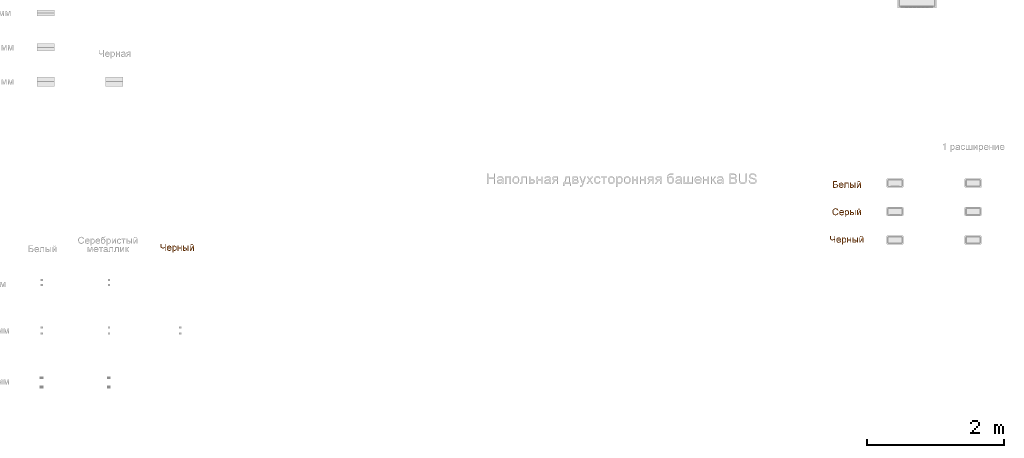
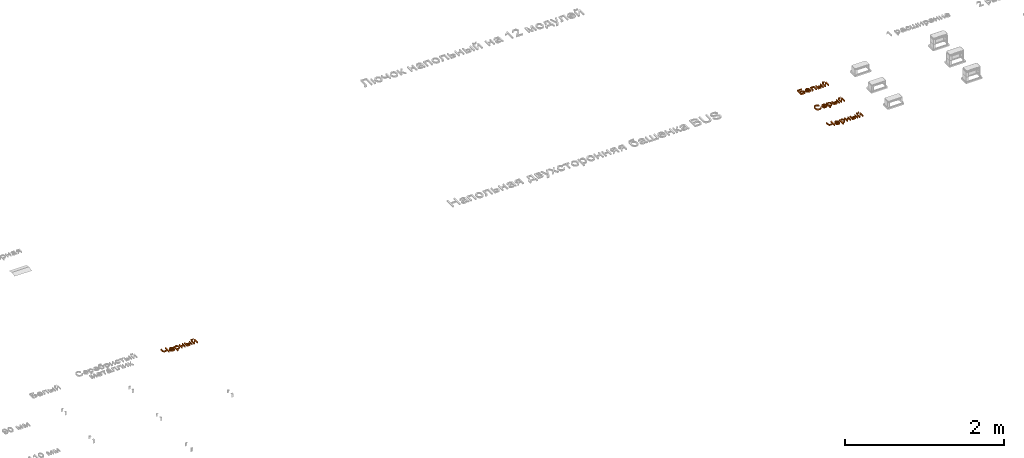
# One storey, part 51 of 87: 4 proxies.
"""IFC2X3 building model written with IfcOpenShell, lengths in millimetres."""

from ifc_helpers import new_model, entity, si_unit, converted_unit, derived_unit, direction, frame, frame_2d, origin, origin_2d_with_axis, place, context, subcontext, project, spatial, polyline, rectangle, outline, extrude, element, save


model = new_model("IFC2X3")

# Units and contexts
model_context = context("Model", 3, precision=0.01, world=origin(), true_north=direction((6.12303176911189e-17, 1.0)))
body_context = subcontext(model_context, "Body", "Model", "MODEL_VIEW")
ifc_project = project(units=[si_unit("LENGTHUNIT", "METRE", prefix="MILLI"), si_unit("AREAUNIT", "SQUARE_METRE"), si_unit("VOLUMEUNIT", "CUBIC_METRE"), converted_unit("PLANEANGLEUNIT", "DEGREE", entity("IfcRatioMeasure", 0.0174532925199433), si_unit("PLANEANGLEUNIT", "RADIAN"), dimensions=[0, 0, 0, 0, 0, 0, 0]), si_unit("MASSUNIT", "GRAM", prefix="KILO"), derived_unit("MASSDENSITYUNIT", [(si_unit("MASSUNIT", "GRAM", prefix="KILO"), 1), (si_unit("LENGTHUNIT", "METRE"), -3)]), si_unit("TIMEUNIT", "SECOND"), si_unit("FREQUENCYUNIT", "HERTZ"), si_unit("THERMODYNAMICTEMPERATUREUNIT", "DEGREE_CELSIUS"), derived_unit("THERMALTRANSMITTANCEUNIT", [(si_unit("MASSUNIT", "GRAM", prefix="KILO"), 1), (si_unit("THERMODYNAMICTEMPERATUREUNIT", "KELVIN"), -1), (si_unit("TIMEUNIT", "SECOND"), -3)]), derived_unit("VOLUMETRICFLOWRATEUNIT", [(si_unit("LENGTHUNIT", "METRE"), 3), (si_unit("TIMEUNIT", "SECOND"), -1)]), si_unit("ELECTRICCURRENTUNIT", "AMPERE"), si_unit("ELECTRICVOLTAGEUNIT", "VOLT"), si_unit("POWERUNIT", "WATT"), si_unit("FORCEUNIT", "NEWTON", prefix="KILO"), si_unit("ILLUMINANCEUNIT", "LUX"), si_unit("LUMINOUSFLUXUNIT", "LUMEN"), si_unit("LUMINOUSINTENSITYUNIT", "CANDELA"), derived_unit("USERDEFINED", [(si_unit("MASSUNIT", "GRAM", prefix="KILO"), -1), (si_unit("LENGTHUNIT", "METRE"), -2), (si_unit("TIMEUNIT", "SECOND"), 3), (si_unit("LUMINOUSFLUXUNIT", "LUMEN"), 1)]), derived_unit("LINEARVELOCITYUNIT", [(si_unit("LENGTHUNIT", "METRE"), 1), (si_unit("TIMEUNIT", "SECOND"), -1)]), si_unit("PRESSUREUNIT", "PASCAL"), derived_unit("USERDEFINED", [(si_unit("LENGTHUNIT", "METRE"), -2), (si_unit("MASSUNIT", "GRAM", prefix="KILO"), 1), (si_unit("TIMEUNIT", "SECOND"), -2)])], contexts=[model_context])

# Site, building, storey
site_placement = place(None, origin())
site = spatial("IfcSite", under=ifc_project, at=site_placement, Name="Default", CompositionType="ELEMENT")
building_placement = place(site_placement, origin())
building = spatial("IfcBuilding", under=site, at=building_placement, Name="Наименование здания", CompositionType="ELEMENT")
storey_placement = place(building_placement, origin())
storey = spatial("IfcBuildingStorey", under=building, at=storey_placement, Name="Этаж 01", CompositionType="ELEMENT", Elevation=0.0)

# Proxies
proxy_1_placement = place(storey_placement, origin())
element("IfcBuildingElementProxy", 1, at=proxy_1_placement, inside=storey, Name="Текст модели:100 мм Arial", ObjectType="Текст модели:100 мм Arial", context=body_context, shape_type="SweptSolid", body=[
    extrude(outline(polyline([(-50.9950475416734, -42.7620371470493), (49.461262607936, -42.7620371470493), (49.461262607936, -4.42873324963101), (45.2428823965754, 17.8649156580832), (34.365838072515, 27.7118903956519), (20.0552284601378, 31.0105656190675), (3.57411507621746, 26.3752524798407), (-6.06439319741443, 14.0389429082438), (-8.61504169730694, -6.68507615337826), (-8.61504169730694, -30.2049983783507), (-38.4380087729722, -30.2049983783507), (-38.4380087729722, 20.0231566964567), (-50.9950475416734, 20.0231566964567), (-50.9950475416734, -42.7620371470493)]), holes=[polyline([(36.9042238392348, -30.2049983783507), (3.94199707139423, -30.2049983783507), (3.94199707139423, -12.2523570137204), (5.24184678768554, 6.66904027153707), (10.4902965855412, 15.3387926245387), (20.325008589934, 18.4535268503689), (27.5784152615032, 17.0923634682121), (32.7594200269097, 13.0088733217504), (36.9042238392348, -3.30056179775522), (36.9042238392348, -30.2049983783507)])]), frame((24680.5887758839, 1021.56272564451, 0.0), z_axis=(0.0, 0.0, 1.0), x_axis=(0.0, -1.0, 0.0)), (0.0, 0.0, 1.0), 20.0),
    extrude(outline(polyline([(-8.10128238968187, -20.3751729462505), (-15.5352214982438, -30.3140016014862), (-5.78400372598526, -33.5775071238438), (4.12185089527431, -33.3132173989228), (13.8776168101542, -29.4480778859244), (23.1785684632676, -21.9090340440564), (31.6380426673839, -9.59237957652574), (34.1620486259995, 3.74135328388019), (30.6040508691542, 17.2442201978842), (20.8175139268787, 30.0682768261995), (7.27698270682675, 39.7846728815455), (-6.66179525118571, 43.1117813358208), (-19.9642596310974, 40.4221234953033), (-31.5958501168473, 32.0882206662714), (-39.2435519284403, 20.5090048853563), (-41.3106827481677, 7.34319797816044), (-37.4373707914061, -6.34962495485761), (-27.2637442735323, -19.5098888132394), (-24.78045840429, -21.8106804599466), (14.4643272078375, 18.7422646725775), (19.7071986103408, 10.643799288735), (21.1614672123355, 2.21005051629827), (19.1472085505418, -5.98136753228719), (13.9844981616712, -13.3528407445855), (3.53684605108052, -20.3751729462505), (-8.10128238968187, -20.3751729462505)]), holes=[polyline([(5.44081225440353, 27.474698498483), (-25.1227061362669, -4.10760383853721), (-29.8038819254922, 7.41909510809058), (-27.8851342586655, 15.7498710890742), (-22.5382240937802, 23.3910349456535), (-8.4097033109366, 31.2368652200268), (-1.08072680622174, 30.9147288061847), (5.44081225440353, 27.474698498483)])]), frame((24758.6708238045, 1002.42401386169, 0.0), z_axis=(0.0, 0.0, -1.0), x_axis=(-0.695421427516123, -0.718602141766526, 0.0)), (0.0, 0.0, -1.0), 20.0),
    extrude(outline(polyline([(-49.3689973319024, 12.544776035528), (-49.3689973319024, -43.9618984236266), (24.3300290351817, -43.9618984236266), (24.3300290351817, -31.404859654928), (-36.8119585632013, -31.404859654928), (-36.8119585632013, -0.0122627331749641), (-1.61791435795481, -0.0122627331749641), (14.6179443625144, 0.833865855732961), (21.4728122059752, 5.48144172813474), (24.403605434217, 16.4688506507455), (23.765943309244, 26.6714446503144), (11.8465666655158, 26.6714446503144), (11.8465666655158, 21.0551128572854), (11.0740144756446, 15.3774673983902), (8.62146784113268, 13.1088617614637), (-2.32915288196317, 12.544776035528), (-49.3689973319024, 12.544776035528)])), frame((24823.030797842, 996.505068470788, 0.0), z_axis=(0.0, 0.0, -1.0), x_axis=(0.0, -1.0, 0.0)), (0.0, 0.0, -1.0), 20.0),
    extrude(outline(polyline([(-42.3988715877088, -34.5139341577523), (31.3737311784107, -34.5139341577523), (31.3737311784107, -3.73447389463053), (29.6538828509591, 9.31613988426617), (24.4943378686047, 18.2526066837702), (16.9129030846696, 23.4121516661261), (7.9273853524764, 25.131999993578), (-1.94104916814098, 23.081057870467), (-9.42438208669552, 16.928231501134), (-14.1424686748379, 6.98622058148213), (-15.7151642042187, -6.43227519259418), (-15.7151642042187, -21.9568953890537), (-42.3988715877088, -21.9568953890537), (-42.3988715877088, -34.5139341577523)]), holes=[polyline([(18.8166924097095, -21.9568953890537), (-3.15812543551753, -21.9568953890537), (-3.15812543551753, -7.41329384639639), (0.226388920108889, 8.88387853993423), (7.95191081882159, 12.5749612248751), (16.1802047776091, 7.59629155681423), (18.8166924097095, -9.05650009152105), (18.8166924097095, -21.9568953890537)])]), frame((24920.3421885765, 1003.47519421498, 0.0), z_axis=(0.0, 0.0, 1.0), x_axis=(0.0, -1.0, 0.0)), (0.0, 0.0, 1.0), 20.0),
    extrude(outline(polyline([(-11.1429830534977, -6.65049913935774), (-15.3141401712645, -15.0941956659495), (-0.0922190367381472, -15.8161107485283), (10.2631635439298, -5.8454754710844), (12.4162171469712, 9.42172447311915), (2.76087400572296, 21.4951559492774), (-1.41028311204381, 13.0514594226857), (3.36929976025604, 6.75127419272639), (2.31913688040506, -0.662833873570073), (-3.16906596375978, -6.65049913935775), (-11.1429830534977, -6.65049913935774)])), frame((25016.1970495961, 1065.51283297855, 0.0), z_axis=(0.0, 0.0, -1.0), x_axis=(-0.442902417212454, -0.896569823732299, 0.0)), (0.0, 0.0, -1.0), 20.0),
    extrude(outline(polyline([(-36.9206370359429, -29.8425874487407), (36.8519657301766, -29.8425874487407), (36.8519657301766, -13.4105249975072), (-19.0660975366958, 17.2463079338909), (36.8519657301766, 17.2463079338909), (36.8519657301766, 29.8033467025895), (-36.9206370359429, 29.8033467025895), (-36.9206370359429, 13.5674879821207), (19.3407827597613, -17.2855486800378), (-36.9206370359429, -17.2855486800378), (-36.9206370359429, -29.8425874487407)])), frame((25016.1271520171, 1008.95342876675, 0.0), z_axis=(0.0, 0.0, 1.0), x_axis=(0.0, -1.0, 0.0)), (0.0, 0.0, 1.0), 20.0),
    extrude(rectangle(XDim=73.7726027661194, YDim=12.5570387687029, at=origin_2d_with_axis()), frame((24961.1704870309, 1008.98776441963, 0.0), z_axis=(0.0, 0.0, 1.0), x_axis=(0.0, -1.0, 0.0)), (0.0, 0.0, 1.0), 20.0),
])
proxy_2_placement = place(storey_placement, origin())
element("IfcBuildingElementProxy", 2, at=proxy_2_placement, inside=storey, Name="Текст модели:100 мм Arial", ObjectType="Текст модели:100 мм Arial", context=body_context, shape_type="SweptSolid", body=[
    extrude(outline(polyline([(1.51482499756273, -34.4161092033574), (0.106407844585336, -47.3070398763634), (15.8423468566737, -47.0569587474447), (29.0556969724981, -42.3279421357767), (39.3932861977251, -33.4650471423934), (46.501942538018, -20.8133308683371), (50.1054677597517, -6.60502583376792), (49.5636952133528, 5.9640118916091), (45.142303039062, 17.1113098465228), (37.1069693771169, 27.0543955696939), (13.8427655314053, 41.4649352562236), (-0.385561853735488, 45.2497080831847), (-13.7947428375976, 45.5463194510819), (-25.9267527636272, 42.4308274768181), (-36.323566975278, 35.9792902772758), (-44.6338782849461, 26.8094665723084), (-50.5063795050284, 15.5391150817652), (-53.5414697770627, 1.96814719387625), (-52.0743247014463, -10.7537866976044), (-46.3177039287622, -22.1661847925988), (-36.4843671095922, -31.8085452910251), (-29.2483218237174, -21.1187569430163), (-40.0515191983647, -6.02732816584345), (-38.5860312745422, 11.5610351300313), (-26.6200251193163, 28.0408775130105), (-9.20796903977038, 33.327216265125), (9.38287380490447, 29.7265712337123), (28.2800845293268, 18.5384764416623), (37.0403955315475, 2.61944954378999), (35.1968742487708, -15.2062682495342), (30.0363719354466, -24.4614258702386), (22.5795019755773, -30.9812938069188), (13.0108058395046, -34.4161092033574), (1.51482499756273, -34.4161092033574)])), frame((24674.4448392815, 621.388360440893, 0.0), z_axis=(0.0, 0.0, -1.0), x_axis=(-0.353343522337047, -0.93549364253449, 0.0)), (0.0, 0.0, -1.0), 20.0),
    extrude(outline(polyline([(-8.10128238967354, -20.3751729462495), (-15.5352214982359, -30.3140016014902), (-5.78400372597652, -33.5775071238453), (4.12185089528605, -33.3132173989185), (13.8776168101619, -29.4480778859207), (23.1785684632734, -21.9090340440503), (31.6380426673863, -9.59237957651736), (34.1620486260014, 3.74135328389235), (30.6040508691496, 17.2442201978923), (20.8175139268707, 30.068276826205), (7.27698270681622, 39.7846728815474), (-6.66179525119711, 43.1117813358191), (-19.9642596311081, 40.4221234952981), (-31.5958501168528, 32.0882206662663), (-39.2435519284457, 20.509004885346), (-41.3106827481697, 7.34319797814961), (-37.4373707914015, -6.34962495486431), (-27.2637442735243, -19.5098888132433), (-24.7804584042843, -21.8106804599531), (14.4643272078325, 18.7422646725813), (19.707198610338, 10.6437992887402), (21.1614672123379, 2.21005051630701), (19.1472085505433, -5.9813675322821), (13.9844981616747, -13.3528407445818), (3.53684605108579, -20.3751729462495), (-8.10128238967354, -20.3751729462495)]), holes=[polyline([(5.44081225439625, 27.4746984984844), (-25.1227061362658, -4.10760383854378), (-29.8038819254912, 7.41909510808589), (-27.8851342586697, 15.7498710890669), (-22.5382240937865, 23.3910349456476), (-8.40970331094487, 31.2368652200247), (-1.08072680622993, 30.9147288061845), (5.44081225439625, 27.4746984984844)])]), frame((24765.7341581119, 602.424013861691, 0.0), z_axis=(0.0, 0.0, -1.0), x_axis=(-0.695421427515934, -0.718602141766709, 0.0)), (0.0, 0.0, -1.0), 20.0),
    extrude(outline(polyline([(-28.8983569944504, -61.2335493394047), (-16.3413182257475, -61.2335493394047), (-16.3413182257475, -23.1700255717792), (-8.38280439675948, -31.3247431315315), (2.54329085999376, -34.5498419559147), (18.4235303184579, -29.7305878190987), (29.9259740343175, -15.8736993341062), (33.8868368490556, 4.47017499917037), (30.3796951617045, 23.8207679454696), (19.9808974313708, 37.5059781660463), (4.06386977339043, 42.36202050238), (-7.65930313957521, 38.8916670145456), (-16.3413182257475, 28.4806065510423), (-16.3413182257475, 40.7923906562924), (-28.8983569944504, 40.7923906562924), (-28.8983569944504, -61.2335493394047)]), holes=[polyline([(-16.3413182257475, 3.31747808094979), (-14.8912500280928, 14.7064915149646), (-10.5410454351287, 23.0236902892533), (-4.30851130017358, 28.1096588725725), (2.7885455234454, 29.8049817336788), (9.85801119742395, 28.210826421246), (15.8606190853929, 23.4283604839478), (19.9625033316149, 15.4453211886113), (21.3297980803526, 4.24944580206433), (19.9287808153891, -7.43080754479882), (15.7257290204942, -15.5916564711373), (9.56063991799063, -20.3925165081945), (2.27351073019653, -21.9928031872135), (-4.89712249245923, -20.447698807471), (-10.908927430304, -15.8123856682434), (-14.9832205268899, -7.93971097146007), (-16.3413182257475, 3.31747808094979)])]), frame((24840.169193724, 605.081675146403, 0.0)), (0.0, 0.0, 1.0), 20.0),
    extrude(outline(polyline([(-42.3988715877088, -34.5139341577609), (31.3737311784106, -34.5139341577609), (31.3737311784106, -3.73447389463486), (29.6538828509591, 9.31613988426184), (24.4943378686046, 18.2526066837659), (16.9129030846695, 23.4121516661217), (7.9273853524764, 25.1319999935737), (-1.94104916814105, 23.0810578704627), (-9.42438208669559, 16.9282315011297), (-14.142468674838, 6.9862205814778), (-15.7151642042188, -6.43227519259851), (-15.7151642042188, -21.956895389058), (-42.3988715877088, -21.956895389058), (-42.3988715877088, -34.5139341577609)]), holes=[polyline([(18.8166924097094, -21.956895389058), (-3.1581254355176, -21.956895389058), (-3.1581254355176, -7.41329384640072), (0.226388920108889, 8.8838785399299), (7.95191081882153, 12.5749612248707), (16.1802047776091, 7.5962915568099), (18.8166924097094, -9.05650009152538), (18.8166924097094, -21.956895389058)])]), frame((24922.6966333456, 603.475194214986, 0.0), z_axis=(0.0, 0.0, 1.0), x_axis=(0.0, -1.0, 0.0)), (0.0, 0.0, 1.0), 20.0),
    extrude(outline(polyline([(-11.1429830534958, -6.65049913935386), (-15.3141401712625, -15.0941956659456), (-0.0922190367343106, -15.8161107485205), (10.2631635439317, -5.84547547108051), (12.416217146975, 9.42172447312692), (2.76087400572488, 21.4951559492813), (-1.41028311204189, 13.0514594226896), (3.36929976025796, 6.75127419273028), (2.31913688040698, -0.662833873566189), (-3.16906596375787, -6.65049913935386), (-11.1429830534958, -6.65049913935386)])), frame((25018.5514943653, 665.512832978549, 0.0), z_axis=(0.0, 0.0, -1.0), x_axis=(-0.442902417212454, -0.896569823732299, 0.0)), (0.0, 0.0, -1.0), 20.0),
    extrude(outline(polyline([(-36.9206370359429, -29.8425874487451), (36.8519657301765, -29.8425874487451), (36.8519657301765, -13.4105249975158), (-19.0660975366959, 17.2463079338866), (36.8519657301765, 17.2463079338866), (36.8519657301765, 29.8033467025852), (-36.9206370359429, 29.8033467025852), (-36.9206370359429, 13.5674879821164), (19.3407827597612, -17.2855486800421), (-36.9206370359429, -17.2855486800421), (-36.9206370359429, -29.8425874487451)])), frame((25018.4815967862, 608.953428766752, 0.0), z_axis=(0.0, 0.0, 1.0), x_axis=(0.0, -1.0, 0.0)), (0.0, 0.0, 1.0), 20.0),
    extrude(rectangle(XDim=73.7726027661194, YDim=12.5570387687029, at=origin_2d_with_axis()), frame((24963.5249318, 608.987764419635, 0.0), z_axis=(0.0, 0.0, 1.0), x_axis=(0.0, -1.0, 0.0)), (0.0, 0.0, 1.0), 20.0),
])
proxy_3_placement = place(storey_placement, origin())
element("IfcBuildingElementProxy", 3, at=proxy_3_placement, inside=storey, Name="Текст модели:100 мм Arial", ObjectType="Текст модели:100 мм Arial", context=body_context, shape_type="SweptSolid", body=[
    extrude(outline(polyline([(-57.0521744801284, -41.5683661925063), (43.404135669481, -41.5683661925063), (43.404135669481, -29.0113274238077), (-5.30344049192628, -29.0113274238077), (-11.5329089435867, 0.689012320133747), (-6.37029827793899, 15.1835629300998), (1.59741260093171, 19.7085114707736), (15.1753239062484, 21.2168276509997), (43.404135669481, 21.2168276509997), (43.404135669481, 33.7738664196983), (13.4830667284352, 33.7738664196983), (-6.51745107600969, 31.0883278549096), (-19.1235407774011, 20.4442754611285), (-24.0899477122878, 2.08696390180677), (-16.8304096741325, -29.0113274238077), (-57.0521744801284, -29.0113274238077), (-57.0521744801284, -41.5683661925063)])), frame((24630.0054142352, 229.1536375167, 0.0), z_axis=(0.0, 0.0, 1.0), x_axis=(0.0, 1.0, 0.0)), (0.0, 0.0, 1.0), 20.0),
    extrude(outline(polyline([(-8.10128238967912, -20.3751729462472), (-15.535221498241, -30.3140016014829), (-5.78400372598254, -33.5775071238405), (4.12185089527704, -33.3132173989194), (13.877616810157, -29.4480778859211), (23.1785684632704, -21.9090340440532), (31.6380426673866, -9.59237957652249), (34.1620486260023, 3.74135328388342), (30.6040508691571, 17.2442201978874), (20.8175139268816, 30.0682768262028), (7.27698270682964, 39.7846728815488), (-6.66179525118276, 43.111781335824), (-19.9642596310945, 40.4221234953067), (-31.5958501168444, 32.0882206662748), (-39.2435519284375, 20.5090048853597), (-41.3106827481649, 7.34319797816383), (-37.4373707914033, -6.34962495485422), (-27.2637442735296, -19.509888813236), (-24.7804584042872, -21.8106804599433), (14.4643272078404, 18.7422646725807), (19.7071986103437, 10.6437992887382), (21.1614672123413, 2.21005051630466), (19.1472085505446, -5.98136753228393), (13.984498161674, -13.3528407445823), (3.53684605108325, -20.3751729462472), (-8.10128238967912, -20.3751729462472)]), holes=[polyline([(5.44081225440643, 27.4746984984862), (-25.1227061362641, -4.10760383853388), (-29.8038819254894, 7.41909510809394), (-27.8851342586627, 15.7498710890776), (-22.5382240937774, 23.3910349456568), (-8.40970331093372, 31.2368652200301), (-1.08072680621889, 30.914728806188), (5.44081225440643, 27.4746984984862)])]), frame((24723.3541522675, 202.424013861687, 0.0), z_axis=(0.0, 0.0, -1.0), x_axis=(-0.695421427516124, -0.718602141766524, 0.0)), (0.0, 0.0, -1.0), 20.0),
    extrude(outline(polyline([(-28.8983569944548, -61.2335493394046), (-16.3413182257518, -61.2335493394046), (-16.3413182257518, -23.1700255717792), (-8.38280439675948, -31.3247431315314), (2.54329085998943, -34.5498419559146), (18.4235303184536, -29.7305878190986), (29.9259740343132, -15.8736993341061), (33.8868368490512, 4.47017499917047), (30.3796951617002, 23.8207679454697), (19.9808974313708, 37.5059781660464), (4.0638697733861, 42.3620205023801), (-7.65930313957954, 38.8916670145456), (-16.3413182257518, 28.4806065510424), (-16.3413182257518, 40.7923906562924), (-28.8983569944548, 40.7923906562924), (-28.8983569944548, -61.2335493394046)]), holes=[polyline([(-16.3413182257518, 3.31747808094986), (-14.8912500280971, 14.7064915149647), (-10.541045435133, 23.0236902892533), (-4.30851130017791, 28.1096588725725), (2.78854552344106, 29.8049817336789), (9.85801119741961, 28.2108264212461), (15.8606190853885, 23.4283604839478), (19.9625033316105, 15.4453211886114), (21.3297980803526, 4.2494458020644), (19.9287808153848, -7.43080754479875), (15.7257290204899, -15.5916564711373), (9.56063991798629, -20.3925165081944), (2.2735107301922, -21.9928031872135), (-4.89712249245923, -20.4476988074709), (-10.9089274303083, -15.8123856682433), (-14.9832205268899, -7.93971097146), (-16.3413182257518, 3.31747808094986)])]), frame((24797.7891878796, 205.081675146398, 0.0)), (0.0, 0.0, 1.0), 20.0),
    extrude(outline(polyline([(-36.1014864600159, -29.038152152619), (37.6711163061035, -29.038152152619), (37.6711163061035, -16.4811133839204), (4.70888953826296, -16.4811133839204), (4.70888953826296, 16.4811133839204), (37.6711163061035, 16.4811133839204), (37.6711163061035, 29.0381521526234), (-36.1014864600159, 29.0381521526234), (-36.1014864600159, 16.4811133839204), (-7.84814923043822, 16.4811133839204), (-7.84814923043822, -16.4811133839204), (-36.1014864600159, -16.4811133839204), (-36.1014864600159, -29.038152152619)])), frame((24874.8408454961, 209.772579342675, 0.0), z_axis=(0.0, 0.0, 1.0), x_axis=(0.0, -1.0, 0.0)), (0.0, 0.0, 1.0), 20.0),
    extrude(outline(polyline([(-42.3988715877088, -34.5139341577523), (31.3737311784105, -34.5139341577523), (31.3737311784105, -3.73447389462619), (29.653882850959, 9.3161398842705), (24.4943378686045, 18.2526066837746), (16.9129030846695, 23.4121516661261), (7.9273853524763, 25.131999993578), (-1.94104916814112, 23.081057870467), (-9.42438208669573, 16.9282315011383), (-14.1424686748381, 6.98622058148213), (-15.7151642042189, -6.43227519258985), (-15.7151642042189, -21.9568953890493), (-42.3988715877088, -21.9568953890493), (-42.3988715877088, -34.5139341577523)]), holes=[polyline([(18.8166924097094, -21.9568953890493), (-3.1581254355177, -21.9568953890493), (-3.1581254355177, -7.41329384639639), (0.226388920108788, 8.88387853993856), (7.95191081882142, 12.5749612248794), (16.180204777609, 7.59629155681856), (18.8166924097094, -9.05650009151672), (18.8166924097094, -21.9568953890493)])]), frame((24957.2284899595, 203.475194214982, 0.0), z_axis=(0.0, 0.0, 1.0), x_axis=(0.0, -1.0, 0.0)), (0.0, 0.0, 1.0), 20.0),
    extrude(outline(polyline([(-11.1429830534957, -6.65049913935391), (-15.3141401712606, -15.0941956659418), (-0.092219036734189, -15.8161107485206), (10.2631635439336, -5.84547547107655), (12.416217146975, 9.42172447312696), (2.7608740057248, 21.4951559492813), (-1.41028311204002, 13.0514594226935), (3.36929976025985, 6.75127419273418), (2.31913688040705, -0.66283387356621), (-3.16906596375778, -6.65049913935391), (-11.1429830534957, -6.65049913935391)])), frame((25053.0833509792, 265.512832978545, 0.0), z_axis=(0.0, 0.0, -1.0), x_axis=(-0.442902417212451, -0.8965698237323, 0.0)), (0.0, 0.0, -1.0), 20.0),
    extrude(outline(polyline([(-36.9206370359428, -29.8425874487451), (36.8519657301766, -29.8425874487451), (36.8519657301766, -13.4105249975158), (-19.0660975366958, 17.2463079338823), (36.8519657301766, 17.2463079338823), (36.8519657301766, 29.8033467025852), (-36.9206370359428, 29.8033467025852), (-36.9206370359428, 13.5674879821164), (19.3407827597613, -17.2855486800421), (-36.9206370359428, -17.2855486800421), (-36.9206370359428, -29.8425874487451)])), frame((25053.0134534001, 208.953428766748, 0.0), z_axis=(0.0, 0.0, 1.0), x_axis=(0.0, -1.0, 0.0)), (0.0, 0.0, 1.0), 20.0),
    extrude(rectangle(XDim=73.7726027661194, YDim=12.5570387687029, at=origin_2d_with_axis()), frame((24998.056788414, 208.987764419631, 0.0), z_axis=(0.0, 0.0, 1.0), x_axis=(0.0, -1.0, 0.0)), (0.0, 0.0, 1.0), 20.0),
])
proxy_4_placement = place(storey_placement, origin())
element("IfcBuildingElementProxy", 4, at=proxy_4_placement, inside=storey, Name="Текст модели:100 мм Arial", ObjectType="Текст модели:100 мм Arial", context=body_context, shape_type="SweptSolid", body=[
    extrude(outline(polyline([(-57.0521744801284, -41.5683661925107), (43.404135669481, -41.5683661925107), (43.404135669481, -29.0113274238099), (-5.30344049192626, -29.0113274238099), (-11.5329089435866, 0.689012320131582), (-6.37029827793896, 15.1835629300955), (1.59741260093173, 19.7085114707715), (15.1753239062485, 21.2168276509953), (43.404135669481, 21.2168276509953), (43.404135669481, 33.7738664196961), (13.4830667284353, 33.7738664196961), (-6.51745107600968, 31.0883278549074), (-19.1235407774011, 20.4442754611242), (-24.0899477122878, 2.08696390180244), (-16.8304096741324, -29.0113274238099), (-57.0521744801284, -29.0113274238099), (-57.0521744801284, -41.5683661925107)])), frame((14870.0647556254, 110.922796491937, 0.0), z_axis=(0.0, 0.0, 1.0), x_axis=(0.0, 1.0, 0.0)), (0.0, 0.0, 1.0), 20.0),
    extrude(outline(polyline([(-8.10128238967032, -20.375172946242), (-15.5352214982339, -30.3140016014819), (-5.78400372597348, -33.5775071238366), (4.12185089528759, -33.3132173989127), (13.8776168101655, -29.4480778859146), (23.1785684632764, -21.909034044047), (31.6380426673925, -9.59237957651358), (34.1620486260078, 3.74135328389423), (30.6040508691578, 17.2442201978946), (20.8175139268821, 30.0682768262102), (7.27698270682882, 39.7846728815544), (-6.66179525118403, 43.1117813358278), (-19.9642596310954, 40.4221234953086), (-31.5958501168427, 32.0882206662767), (-39.2435519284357, 20.509004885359), (-41.3106827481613, 7.34319797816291), (-37.4373707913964, -6.34962495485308), (-27.2637442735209, -19.5098888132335), (-24.7804584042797, -21.8106804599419), (14.4643272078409, 18.7422646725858), (19.7071986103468, 10.6437992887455), (21.1614672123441, 2.2100505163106), (19.1472085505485, -5.98136753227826), (13.9844981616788, -13.3528407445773), (3.53684605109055, -20.375172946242), (-8.10128238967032, -20.375172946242)]), holes=[polyline([(5.44081225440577, 27.47469849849), (-25.122706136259, -4.10760383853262), (-29.8038819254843, 7.41909510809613), (-27.8851342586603, 15.7498710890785), (-22.538224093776, 23.3910349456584), (-8.40970331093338, 31.2368652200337), (-1.08072680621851, 30.9147288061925), (5.44081225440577, 27.47469849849)])]), frame((14963.4134936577, 84.1931728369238, 0.0), z_axis=(0.0, 0.0, -1.0), x_axis=(-0.695421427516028, -0.718602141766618, 0.0)), (0.0, 0.0, -1.0), 20.0),
    extrude(outline(polyline([(-28.8983569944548, -61.2335493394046), (-16.3413182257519, -61.2335493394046), (-16.3413182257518, -23.1700255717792), (-8.38280439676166, -31.3247431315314), (2.54329085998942, -34.5498419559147), (18.4235303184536, -29.7305878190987), (29.9259740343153, -15.8736993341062), (33.8868368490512, 4.47017499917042), (30.3796951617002, 23.8207679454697), (19.9808974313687, 37.5059781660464), (4.06386977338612, 42.36202050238), (-7.65930313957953, 38.8916670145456), (-16.3413182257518, 28.4806065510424), (-16.3413182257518, 40.7923906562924), (-28.8983569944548, 40.7923906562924), (-28.8983569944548, -61.2335493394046)]), holes=[polyline([(-16.3413182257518, 3.31747808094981), (-14.8912500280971, 14.7064915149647), (-10.541045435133, 23.0236902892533), (-4.3085113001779, 28.1096588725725), (2.78854552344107, 29.8049817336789), (9.85801119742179, 28.2108264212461), (15.8606190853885, 23.4283604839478), (19.9625033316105, 15.4453211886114), (21.3297980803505, 4.24944580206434), (19.9287808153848, -7.43080754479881), (15.7257290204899, -15.5916564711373), (9.56063991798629, -20.3925165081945), (2.27351073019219, -21.9928031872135), (-4.89712249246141, -20.447698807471), (-10.9089274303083, -15.8123856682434), (-14.983220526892, -7.93971097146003), (-16.3413182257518, 3.31747808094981)])]), frame((15037.8485292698, 86.8508341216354, 0.0)), (0.0, 0.0, 1.0), 20.0),
    extrude(outline(polyline([(-36.1014864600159, -29.0381521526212), (37.6711163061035, -29.0381521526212), (37.6711163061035, -16.4811133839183), (4.70888953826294, -16.4811133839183), (4.70888953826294, 16.4811133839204), (37.6711163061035, 16.4811133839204), (37.6711163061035, 29.0381521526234), (-36.1014864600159, 29.0381521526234), (-36.1014864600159, 16.4811133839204), (-7.84814923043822, 16.4811133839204), (-7.84814923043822, -16.4811133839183), (-36.1014864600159, -16.4811133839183), (-36.1014864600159, -29.0381521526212)])), frame((15114.9001868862, 91.5417383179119, 0.0), z_axis=(0.0, 0.0, 1.0), x_axis=(0.0, -1.0, 0.0)), (0.0, 0.0, 1.0), 20.0),
    extrude(outline(polyline([(-42.3988715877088, -34.5139341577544), (31.3737311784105, -34.5139341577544), (31.3737311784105, -3.73447389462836), (29.653882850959, 9.31613988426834), (24.4943378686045, 18.2526066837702), (16.9129030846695, 23.4121516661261), (7.9273853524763, 25.131999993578), (-1.94104916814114, 23.081057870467), (-9.42438208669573, 16.928231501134), (-14.1424686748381, 6.98622058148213), (-15.7151642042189, -6.43227519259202), (-15.7151642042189, -21.9568953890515), (-42.3988715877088, -21.9568953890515), (-42.3988715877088, -34.5139341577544)]), holes=[polyline([(18.8166924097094, -21.9568953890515), (-3.1581254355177, -21.9568953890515), (-3.1581254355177, -7.41329384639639), (0.226388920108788, 8.8838785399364), (7.95191081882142, 12.5749612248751), (16.180204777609, 7.5962915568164), (18.8166924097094, -9.05650009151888), (18.8166924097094, -21.9568953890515)])]), frame((15197.2878313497, 85.2443531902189, 0.0), z_axis=(0.0, 0.0, 1.0), x_axis=(0.0, -1.0, 0.0)), (0.0, 0.0, 1.0), 20.0),
    extrude(outline(polyline([(-11.1429830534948, -6.65049913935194), (-15.3141401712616, -15.0941956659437), (-0.0922190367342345, -15.8161107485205), (10.2631635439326, -5.84547547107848), (12.416217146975, 9.42172447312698), (2.76087400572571, 21.4951559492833), (-1.41028311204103, 13.0514594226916), (3.36929976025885, 6.75127419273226), (2.31913688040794, -0.662833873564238), (-3.16906596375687, -6.65049913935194), (-11.1429830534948, -6.65049913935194)])), frame((15293.1426923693, 147.281991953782, 0.0), z_axis=(0.0, 0.0, -1.0), x_axis=(-0.442902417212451, -0.8965698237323, 0.0)), (0.0, 0.0, -1.0), 20.0),
    extrude(outline(polyline([(-36.9206370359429, -29.8425874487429), (36.8519657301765, -29.8425874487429), (36.8519657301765, -13.4105249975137), (-19.0660975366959, 17.2463079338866), (36.8519657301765, 17.2463079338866), (36.8519657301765, 29.8033467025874), (-36.9206370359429, 29.8033467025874), (-36.9206370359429, 13.5674879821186), (19.3407827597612, -17.2855486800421), (-36.9206370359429, -17.2855486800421), (-36.9206370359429, -29.8425874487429)])), frame((15293.0727947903, 90.7225877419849, 0.0), z_axis=(0.0, 0.0, 1.0), x_axis=(0.0, -1.0, 0.0)), (0.0, 0.0, 1.0), 20.0),
    extrude(rectangle(XDim=73.7726027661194, YDim=12.5570387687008, at=frame_2d((0.0, 1.08268949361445e-12), x_axis=(1.0, 0.0))), frame((15238.1161298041, 90.7569233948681, 0.0), z_axis=(0.0, 0.0, 1.0), x_axis=(0.0, -1.0, 0.0)), (0.0, 0.0, 1.0), 20.0),
])

save(model, "model.ifc")
